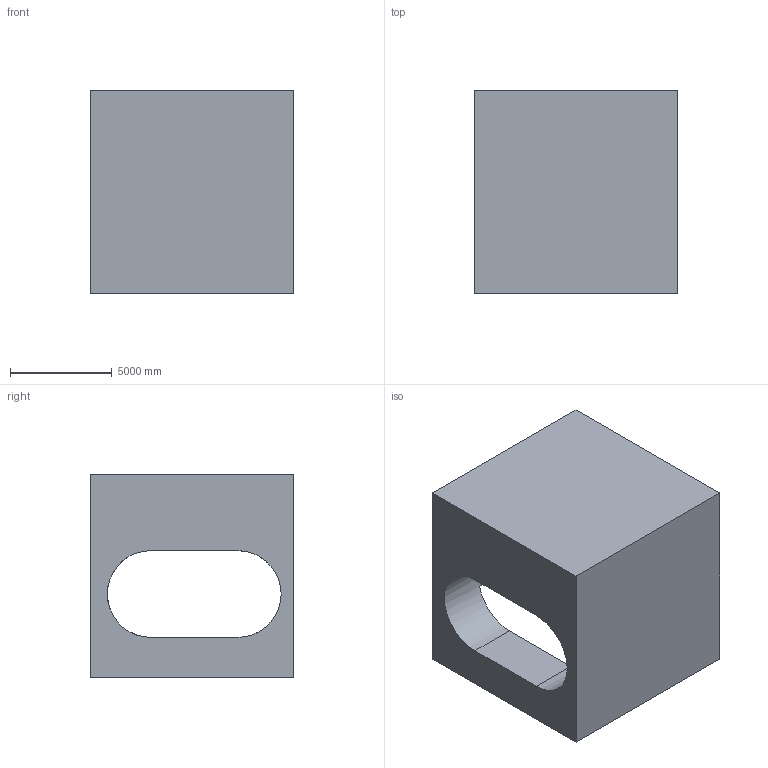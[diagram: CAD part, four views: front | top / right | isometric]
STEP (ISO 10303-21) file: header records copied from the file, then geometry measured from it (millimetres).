
FILE_DESCRIPTION (( 'STEP AP203' ), '1' );
FILE_NAME ('1021.STEP', '2022-08-18T12:27:10', ( 'user' ), ( '' ), 'SwSTEP 2.0', 'SolidWorks 2021', '' );
FILE_SCHEMA (( 'CONFIG_CONTROL_DESIGN' ));
Length unit declared in the file: centimetre
Products named in the file (1): 1021
Bounding box: 10000 x 10000 x 10000 mm (x, y, z)
Volume: 530989855072.2 mm3; surface area: 625302715.7 mm2
Topology: 1 solids, 1 shells, 13 faces, 36 edges, 24 vertices
Faces by surface type: plane 11, cylinder 2
Entity records: 497 total; most frequent: CARTESIAN_POINT 74, ORIENTED_EDGE 72, DIRECTION 70, EDGE_CURVE 36, VECTOR 30, LINE 30, VERTEX_POINT 24, AXIS2_PLACEMENT_3D 20
